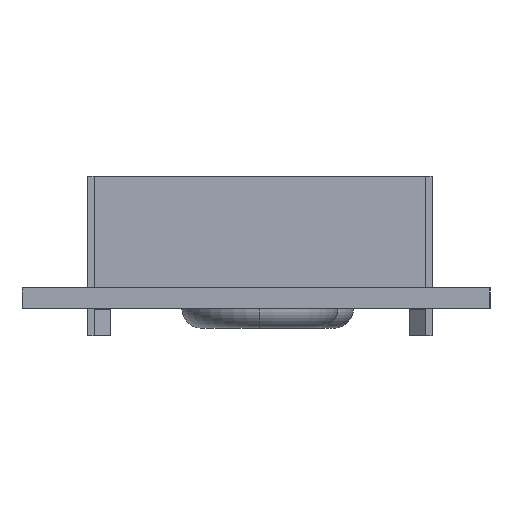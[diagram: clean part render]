
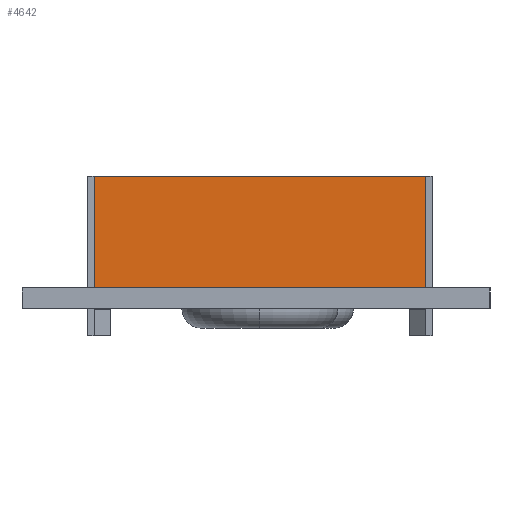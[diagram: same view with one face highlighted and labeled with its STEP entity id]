
A CAD part, left-side view. The second image highlights one B-rep face of the part: STEP entity #4642.
In plain terms, the highlighted planar face has unit normal (-1, 0, 0).
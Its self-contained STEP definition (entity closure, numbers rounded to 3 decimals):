
#391 = CARTESIAN_POINT ( 'NONE',  ( -35.75, -13.05, 10.2 ) ) ;
#890 = LINE ( 'NONE', #14520, #15026 ) ;
#1167 = EDGE_CURVE ( 'NONE', #2495, #10868, #11798, .T. ) ;
#1809 = DIRECTION ( 'NONE',  ( 1., 0., 0. ) ) ;
#2495 = VERTEX_POINT ( 'NONE', #3634 ) ;
#3634 = CARTESIAN_POINT ( 'NONE',  ( -35.75, 12.45, 1.6 ) ) ;
#4537 = VECTOR ( 'NONE', #8599, 1000. ) ;
#4642 = ADVANCED_FACE ( 'NONE', ( #10815 ), #12699, .F. ) ;
#4894 = CARTESIAN_POINT ( 'NONE',  ( -35.75, 12.45, 1.6 ) ) ;
#5454 = ORIENTED_EDGE ( 'NONE', *, *, #9551, .T. ) ;
#6234 = CARTESIAN_POINT ( 'NONE',  ( -35.75, -13.05, 10.2 ) ) ;
#6311 = DIRECTION ( 'NONE',  ( 0., 0., -1. ) ) ;
#6743 = LINE ( 'NONE', #6234, #14020 ) ;
#7329 = LINE ( 'NONE', #16812, #4537 ) ;
#7391 = EDGE_LOOP ( 'NONE', ( #10792, #9519, #16980, #5454 ) ) ;
#8277 = DIRECTION ( 'NONE',  ( 0., -1., 0. ) ) ;
#8599 = DIRECTION ( 'NONE',  ( 0., -1., 0. ) ) ;
#9519 = ORIENTED_EDGE ( 'NONE', *, *, #17491, .F. ) ;
#9551 = EDGE_CURVE ( 'NONE', #16007, #2495, #890, .T. ) ;
#10025 = CARTESIAN_POINT ( 'NONE',  ( -35.75, 12.45, 10.2 ) ) ;
#10792 = ORIENTED_EDGE ( 'NONE', *, *, #1167, .T. ) ;
#10815 = FACE_OUTER_BOUND ( 'NONE', #7391, .T. ) ;
#10868 = VERTEX_POINT ( 'NONE', #17324 ) ;
#11391 = DIRECTION ( 'NONE',  ( 0., 0., -1. ) ) ;
#11798 = LINE ( 'NONE', #4894, #14578 ) ;
#11932 = AXIS2_PLACEMENT_3D ( 'NONE', #10025, #1809, #11391 ) ;
#12699 = PLANE ( 'NONE',  #11932 ) ;
#13885 = EDGE_CURVE ( 'NONE', #16007, #15937, #7329, .T. ) ;
#14020 = VECTOR ( 'NONE', #17169, 1000. ) ;
#14520 = CARTESIAN_POINT ( 'NONE',  ( -35.75, 12.45, 10.2 ) ) ;
#14578 = VECTOR ( 'NONE', #8277, 1000. ) ;
#15026 = VECTOR ( 'NONE', #6311, 1000. ) ;
#15937 = VERTEX_POINT ( 'NONE', #391 ) ;
#16007 = VERTEX_POINT ( 'NONE', #17019 ) ;
#16812 = CARTESIAN_POINT ( 'NONE',  ( -35.75, 12.45, 10.2 ) ) ;
#16980 = ORIENTED_EDGE ( 'NONE', *, *, #13885, .F. ) ;
#17019 = CARTESIAN_POINT ( 'NONE',  ( -35.75, 12.45, 10.2 ) ) ;
#17169 = DIRECTION ( 'NONE',  ( 0., 0., -1. ) ) ;
#17324 = CARTESIAN_POINT ( 'NONE',  ( -35.75, -13.05, 1.6 ) ) ;
#17491 = EDGE_CURVE ( 'NONE', #15937, #10868, #6743, .T. ) ;
